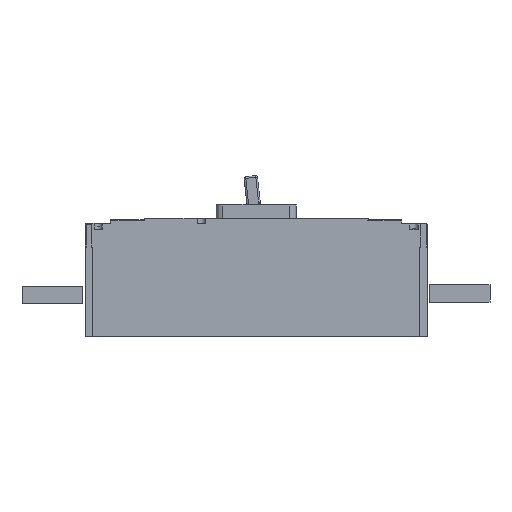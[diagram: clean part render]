
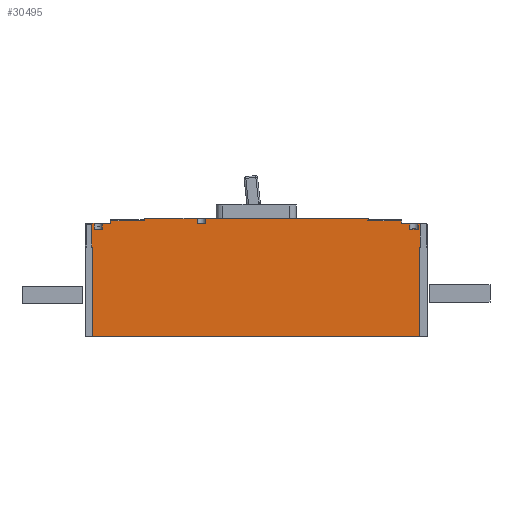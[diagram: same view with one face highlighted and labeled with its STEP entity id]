
A CAD part, left-side view. The second image highlights one B-rep face of the part: STEP entity #30495.
In plain terms, the highlighted planar face has unit normal (-1, 0, 0).
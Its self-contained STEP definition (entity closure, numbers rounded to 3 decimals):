
#4810=DIRECTION('',(0.,1.,0.));
#4811=VECTOR('',#4810,9.5);
#4812=CARTESIAN_POINT('',(0.,20.5,133.5));
#4813=LINE('',#4812,#4811);
#4818=DIRECTION('',(0.,0.,1.));
#4819=VECTOR('',#4818,6.5);
#4820=CARTESIAN_POINT('',(0.,20.5,127.));
#4821=LINE('',#4820,#4819);
#4839=DIRECTION('',(0.,1.,0.));
#4840=VECTOR('',#4839,10.);
#4841=CARTESIAN_POINT('',(0.,10.5,127.));
#4842=LINE('',#4841,#4840);
#4872=DIRECTION('',(0.,1.,0.));
#4873=VECTOR('',#4872,10.);
#4874=CARTESIAN_POINT('',(0.,263.,134.));
#4875=LINE('',#4874,#4873);
#4876=DIRECTION('',(0.,0.,1.));
#4877=VECTOR('',#4876,5.5);
#4878=CARTESIAN_POINT('',(0.,263.,134.));
#4879=LINE('',#4878,#4877);
#4880=DIRECTION('',(0.,1.,0.));
#4881=VECTOR('',#4880,0.5);
#4882=CARTESIAN_POINT('',(0.,30.,134.));
#4883=LINE('',#4882,#4881);
#4884=DIRECTION('',(0.,0.,1.));
#4885=VECTOR('',#4884,0.5);
#4886=CARTESIAN_POINT('',(0.,30.,133.5));
#4887=LINE('',#4886,#4885);
#4888=DIRECTION('',(0.,0.,1.));
#4889=VECTOR('',#4888,6.5);
#4890=CARTESIAN_POINT('',(0.,10.5,127.));
#4891=LINE('',#4890,#4889);
#4892=DIRECTION('',(0.,1.,0.));
#4893=VECTOR('',#4892,0.5);
#4894=CARTESIAN_POINT('',(0.,8.,106.));
#4895=LINE('',#4894,#4893);
#4896=DIRECTION('',(0.,1.,0.));
#4897=VECTOR('',#4896,389.);
#4898=CARTESIAN_POINT('',(0.,8.5,0.));
#4899=LINE('',#4898,#4897);
#4900=DIRECTION('',(0.,0.,1.));
#4901=VECTOR('',#4900,106.);
#4902=CARTESIAN_POINT('',(0.,397.5,0.));
#4903=LINE('',#4902,#4901);
#4904=DIRECTION('',(0.,1.,0.));
#4905=VECTOR('',#4904,0.5);
#4906=CARTESIAN_POINT('',(0.,397.5,106.));
#4907=LINE('',#4906,#4905);
#4908=DIRECTION('',(0.,0.,1.));
#4909=VECTOR('',#4908,28.);
#4910=CARTESIAN_POINT('',(0.,398.,106.));
#4911=LINE('',#4910,#4909);
#4912=DIRECTION('',(0.,-1.,0.));
#4913=VECTOR('',#4912,2.5);
#4914=CARTESIAN_POINT('',(0.,398.,134.));
#4915=LINE('',#4914,#4913);
#4916=DIRECTION('',(0.,0.,1.));
#4917=VECTOR('',#4916,7.);
#4918=CARTESIAN_POINT('',(0.,385.5,127.));
#4919=LINE('',#4918,#4917);
#4920=DIRECTION('',(0.,-1.,0.));
#4921=VECTOR('',#4920,10.);
#4922=CARTESIAN_POINT('',(0.,385.5,134.));
#4923=LINE('',#4922,#4921);
#4928=DIRECTION('',(0.,0.,1.));
#4929=VECTOR('',#4928,5.5);
#4930=CARTESIAN_POINT('',(0.,273.,134.));
#4931=LINE('',#4930,#4929);
#4941=DIRECTION('',(0.,1.,0.));
#4942=VECTOR('',#4941,62.5);
#4943=CARTESIAN_POINT('',(0.,273.,139.5));
#4944=LINE('',#4943,#4942);
#4986=DIRECTION('',(0.,0.,-1.));
#4987=VECTOR('',#4986,2.);
#4988=CARTESIAN_POINT('',(0.,335.5,139.5));
#4989=LINE('',#4988,#4987);
#5008=DIRECTION('',(0.,1.,0.));
#5009=VECTOR('',#5008,40.);
#5010=CARTESIAN_POINT('',(0.,335.5,137.5));
#5011=LINE('',#5010,#5009);
#5097=DIRECTION('',(0.,0.,-1.));
#5098=VECTOR('',#5097,3.5);
#5099=CARTESIAN_POINT('',(0.,375.5,137.5));
#5100=LINE('',#5099,#5098);
#7645=DIRECTION('',(0.,0.,1.));
#7646=VECTOR('',#7645,3.5);
#7647=CARTESIAN_POINT('',(0.,30.5,134.));
#7648=LINE('',#7647,#7646);
#7674=DIRECTION('',(0.,1.,0.));
#7675=VECTOR('',#7674,40.);
#7676=CARTESIAN_POINT('',(0.,30.5,137.5));
#7677=LINE('',#7676,#7675);
#7682=DIRECTION('',(0.,0.,1.));
#7683=VECTOR('',#7682,2.);
#7684=CARTESIAN_POINT('',(0.,70.5,137.5));
#7685=LINE('',#7684,#7683);
#7725=DIRECTION('',(0.,1.,0.));
#7726=VECTOR('',#7725,192.5);
#7727=CARTESIAN_POINT('',(0.,70.5,139.5));
#7728=LINE('',#7727,#7726);
#11557=DIRECTION('',(0.,0.,1.));
#11558=VECTOR('',#11557,106.);
#11559=CARTESIAN_POINT('',(0.,8.5,0.));
#11560=LINE('',#11559,#11558);
#11586=DIRECTION('',(0.,0.,1.));
#11587=VECTOR('',#11586,27.5);
#11588=CARTESIAN_POINT('',(0.,8.,106.));
#11589=LINE('',#11588,#11587);
#11616=DIRECTION('',(0.,1.,0.));
#11617=VECTOR('',#11616,2.5);
#11618=CARTESIAN_POINT('',(0.,8.,133.5));
#11619=LINE('',#11618,#11617);
#14842=DIRECTION('',(0.,1.,0.));
#14843=VECTOR('',#14842,10.);
#14844=CARTESIAN_POINT('',(0.,385.5,127.));
#14845=LINE('',#14844,#14843);
#14870=DIRECTION('',(0.,0.,1.));
#14871=VECTOR('',#14870,7.);
#14872=CARTESIAN_POINT('',(0.,395.5,127.));
#14873=LINE('',#14872,#14871);
#19290=CARTESIAN_POINT('',(0.,397.5,0.));
#19291=VERTEX_POINT('',#19290);
#19292=CARTESIAN_POINT('',(0.,8.5,0.));
#19293=VERTEX_POINT('',#19292);
#20632=CARTESIAN_POINT('',(0.,375.5,134.));
#20633=VERTEX_POINT('',#20632);
#20634=CARTESIAN_POINT('',(0.,385.5,134.));
#20635=VERTEX_POINT('',#20634);
#20642=CARTESIAN_POINT('',(0.,395.5,134.));
#20643=VERTEX_POINT('',#20642);
#20644=CARTESIAN_POINT('',(0.,398.,134.));
#20645=VERTEX_POINT('',#20644);
#20742=CARTESIAN_POINT('',(0.,30.5,137.5));
#20743=VERTEX_POINT('',#20742);
#20744=CARTESIAN_POINT('',(0.,8.,106.));
#20745=CARTESIAN_POINT('',(0.,8.,133.5));
#20746=VERTEX_POINT('',#20744);
#20747=VERTEX_POINT('',#20745);
#20748=CARTESIAN_POINT('',(0.,398.,106.));
#20749=VERTEX_POINT('',#20748);
#20750=CARTESIAN_POINT('',(0.,395.5,127.));
#20751=VERTEX_POINT('',#20750);
#20752=CARTESIAN_POINT('',(0.,385.5,127.));
#20753=VERTEX_POINT('',#20752);
#20754=CARTESIAN_POINT('',(0.,375.5,137.5));
#20755=VERTEX_POINT('',#20754);
#20756=CARTESIAN_POINT('',(0.,335.5,137.5));
#20757=VERTEX_POINT('',#20756);
#20758=CARTESIAN_POINT('',(0.,335.5,139.5));
#20759=VERTEX_POINT('',#20758);
#20760=CARTESIAN_POINT('',(0.,273.,139.5));
#20761=VERTEX_POINT('',#20760);
#20762=CARTESIAN_POINT('',(0.,70.5,139.5));
#20763=CARTESIAN_POINT('',(0.,263.,139.5));
#20764=VERTEX_POINT('',#20762);
#20765=VERTEX_POINT('',#20763);
#20766=CARTESIAN_POINT('',(0.,70.5,137.5));
#20767=VERTEX_POINT('',#20766);
#20768=CARTESIAN_POINT('',(0.,20.5,127.));
#20769=CARTESIAN_POINT('',(0.,20.5,133.5));
#20770=VERTEX_POINT('',#20768);
#20771=VERTEX_POINT('',#20769);
#20772=CARTESIAN_POINT('',(0.,10.5,127.));
#20773=VERTEX_POINT('',#20772);
#20774=CARTESIAN_POINT('',(0.,10.5,133.5));
#20775=VERTEX_POINT('',#20774);
#22994=CARTESIAN_POINT('',(0.,8.5,106.));
#22995=VERTEX_POINT('',#22994);
#22996=CARTESIAN_POINT('',(0.,397.5,106.));
#22998=VERTEX_POINT('',#22996);
#24471=CARTESIAN_POINT('',(0.,30.,134.));
#24472=VERTEX_POINT('',#24471);
#24523=CARTESIAN_POINT('',(0.,30.5,134.));
#24524=VERTEX_POINT('',#24523);
#24557=CARTESIAN_POINT('',(0.,263.,134.));
#24559=VERTEX_POINT('',#24557);
#24561=CARTESIAN_POINT('',(0.,273.,134.));
#24563=VERTEX_POINT('',#24561);
#24617=CARTESIAN_POINT('',(0.,30.,133.5));
#24618=VERTEX_POINT('',#24617);
#30436=CARTESIAN_POINT('',(0.,203.,0.));
#30437=DIRECTION('',(-1.,0.,0.));
#30438=DIRECTION('',(0.,0.,1.));
#30439=AXIS2_PLACEMENT_3D('',#30436,#30437,#30438);
#30440=PLANE('',#30439);
#30442=ORIENTED_EDGE('',*,*,#30441,.F.);
#30443=ORIENTED_EDGE('',*,*,#25805,.F.);
#30444=ORIENTED_EDGE('',*,*,#25560,.T.);
#30446=ORIENTED_EDGE('',*,*,#30445,.F.);
#30448=ORIENTED_EDGE('',*,*,#30447,.F.);
#30450=ORIENTED_EDGE('',*,*,#30449,.F.);
#30452=ORIENTED_EDGE('',*,*,#30451,.F.);
#30453=ORIENTED_EDGE('',*,*,#25766,.F.);
#30454=ORIENTED_EDGE('',*,*,#29056,.F.);
#30455=ORIENTED_EDGE('',*,*,#30362,.F.);
#30456=ORIENTED_EDGE('',*,*,#30377,.F.);
#30457=ORIENTED_EDGE('',*,*,#30407,.F.);
#30458=ORIENTED_EDGE('',*,*,#30426,.T.);
#30460=ORIENTED_EDGE('',*,*,#30459,.F.);
#30462=ORIENTED_EDGE('',*,*,#30461,.F.);
#30464=ORIENTED_EDGE('',*,*,#30463,.T.);
#30466=ORIENTED_EDGE('',*,*,#30465,.F.);
#30468=ORIENTED_EDGE('',*,*,#30467,.T.);
#30470=ORIENTED_EDGE('',*,*,#30469,.T.);
#30472=ORIENTED_EDGE('',*,*,#30471,.T.);
#30474=ORIENTED_EDGE('',*,*,#30473,.T.);
#30476=ORIENTED_EDGE('',*,*,#30475,.T.);
#30478=ORIENTED_EDGE('',*,*,#30477,.F.);
#30480=ORIENTED_EDGE('',*,*,#30479,.F.);
#30482=ORIENTED_EDGE('',*,*,#30481,.T.);
#30484=ORIENTED_EDGE('',*,*,#30483,.T.);
#30486=ORIENTED_EDGE('',*,*,#30485,.F.);
#30488=ORIENTED_EDGE('',*,*,#30487,.F.);
#30490=ORIENTED_EDGE('',*,*,#30489,.F.);
#30492=ORIENTED_EDGE('',*,*,#30491,.F.);
#30493=EDGE_LOOP('',(#30442,#30443,#30444,#30446,#30448,#30450,#30452,#30453,
#30454,#30455,#30456,#30457,#30458,#30460,#30462,#30464,#30466,#30468,#30470,
#30472,#30474,#30476,#30478,#30480,#30482,#30484,#30486,#30488,#30490,#30492));
#30494=FACE_OUTER_BOUND('',#30493,.F.);
#30495=ADVANCED_FACE('',(#30494),#30440,.T.);
#25560=EDGE_CURVE('',#24559,#20765,#4879,.T.);
#25766=EDGE_CURVE('',#24472,#24524,#4883,.T.);
#25805=EDGE_CURVE('',#24559,#24563,#4875,.T.);
#29056=EDGE_CURVE('',#24618,#24472,#4887,.T.);
#30362=EDGE_CURVE('',#20771,#24618,#4813,.T.);
#30377=EDGE_CURVE('',#20770,#20771,#4821,.T.);
#30407=EDGE_CURVE('',#20773,#20770,#4842,.T.);
#30426=EDGE_CURVE('',#20773,#20775,#4891,.T.);
#30441=EDGE_CURVE('',#24563,#20761,#4931,.T.);
#30445=EDGE_CURVE('',#20764,#20765,#7728,.T.);
#30447=EDGE_CURVE('',#20767,#20764,#7685,.T.);
#30449=EDGE_CURVE('',#20743,#20767,#7677,.T.);
#30451=EDGE_CURVE('',#24524,#20743,#7648,.T.);
#30459=EDGE_CURVE('',#20747,#20775,#11619,.T.);
#30461=EDGE_CURVE('',#20746,#20747,#11589,.T.);
#30463=EDGE_CURVE('',#20746,#22995,#4895,.T.);
#30465=EDGE_CURVE('',#19293,#22995,#11560,.T.);
#30467=EDGE_CURVE('',#19293,#19291,#4899,.T.);
#30469=EDGE_CURVE('',#19291,#22998,#4903,.T.);
#30471=EDGE_CURVE('',#22998,#20749,#4907,.T.);
#30473=EDGE_CURVE('',#20749,#20645,#4911,.T.);
#30475=EDGE_CURVE('',#20645,#20643,#4915,.T.);
#30477=EDGE_CURVE('',#20751,#20643,#14873,.T.);
#30479=EDGE_CURVE('',#20753,#20751,#14845,.T.);
#30481=EDGE_CURVE('',#20753,#20635,#4919,.T.);
#30483=EDGE_CURVE('',#20635,#20633,#4923,.T.);
#30485=EDGE_CURVE('',#20755,#20633,#5100,.T.);
#30487=EDGE_CURVE('',#20757,#20755,#5011,.T.);
#30489=EDGE_CURVE('',#20759,#20757,#4989,.T.);
#30491=EDGE_CURVE('',#20761,#20759,#4944,.T.);
